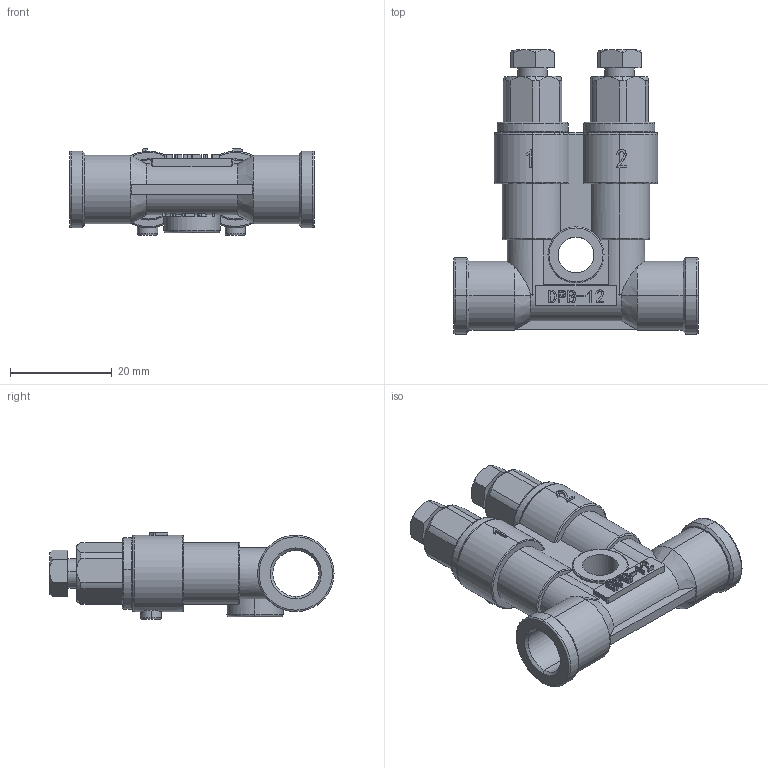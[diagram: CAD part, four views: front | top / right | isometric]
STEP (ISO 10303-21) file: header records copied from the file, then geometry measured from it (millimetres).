
FILE_DESCRIPTION (( 'STEP AP203' ), '1' );
FILE_NAME ('DPB-12.STEP', '2020-04-17T09:00:03', ( '个人用户' ), ( '微软中国' ), 'SwSTEP 2.0', 'SolidWorks 2018', '' );
FILE_SCHEMA (( 'CONFIG_CONTROL_DESIGN' ));
Length unit declared in the file: millimetre
Products named in the file (1): DPB-12
Bounding box: 48 x 55.7 x 17 mm (x, y, z)
Surface area: 7281 mm2 (no closed solid volume)
Topology: 0 solids, 7 shells, 339 faces, 935 edges, 612 vertices
Faces by surface type: plane 155, cylinder 80, torus 38, bspline 34, cone 32
Entity records: 13577 total; most frequent: CARTESIAN_POINT 5101, ORIENTED_EDGE 1786, DIRECTION 1666, EDGE_CURVE 935, VERTEX_POINT 612, AXIS2_PLACEMENT_3D 598, LINE 470, VECTOR 470
